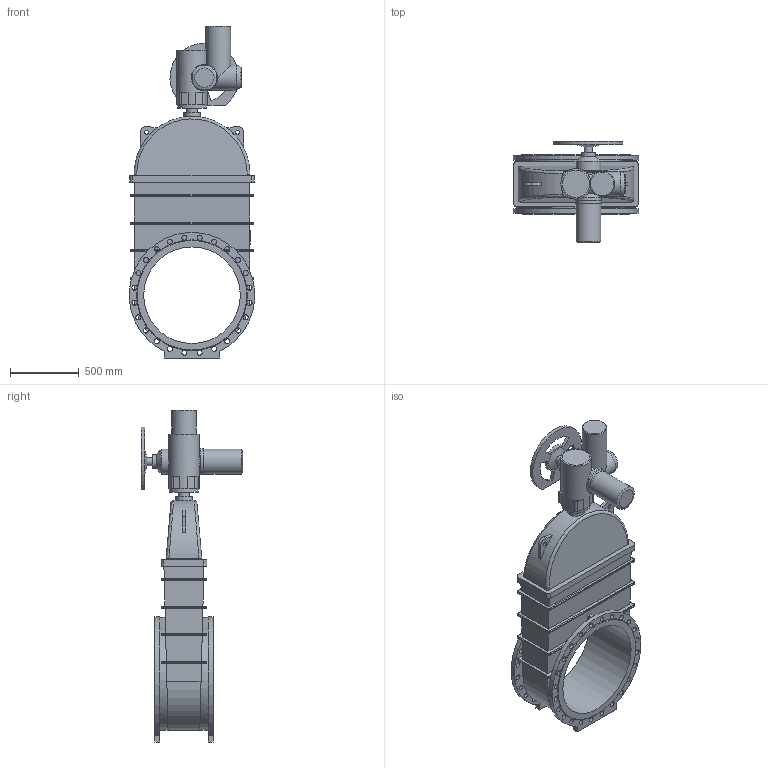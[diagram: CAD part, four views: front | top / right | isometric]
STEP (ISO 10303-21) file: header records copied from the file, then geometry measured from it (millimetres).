
FILE_DESCRIPTION(('STEP AP203'), '1');
FILE_NAME('青溻桄赅 47GVA.Z DN700 PN10_PN16+MT903.A60', '', ('UNSPECIFIED'), ('UNSPECIFIED'), 'ASCON STEP Converter 1.6', 'ASCON Math Kernel', '');
FILE_SCHEMA(('CONFIG_CONTROL_DESIGN'));
Length unit declared in the file: millimetre
Bounding box: 907.39 x 733 x 2406 mm (x, y, z)
Volume: 302176978.3 mm3; surface area: 7145728 mm2
Topology: 2 solids, 2 shells, 364 faces, 921 edges, 588 vertices
Faces by surface type: cylinder 171, plane 147, bspline 34, cone 11, torus 1
Full cylindrical faces by diameter (mm): 17.5 x4, 22 x4, 30 x2, 37 x48, 40 x1, 60 x1, 80 x1, 100 x1, 120 x1, 130 x2, 140 x1, 180 x4, 187 x1, 191 x1, 210 x1, 220 x1, 700 x1
Entity records: 18498 total; most frequent: CARTESIAN_POINT 7116, ORIENTED_EDGE 1668, DIRECTION 1657, EDGE_CURVE 834, AXIS2_PLACEMENT_3D 629, EDGE_LOOP 593, VERTEX_POINT 587, FACE_BOUND 431
